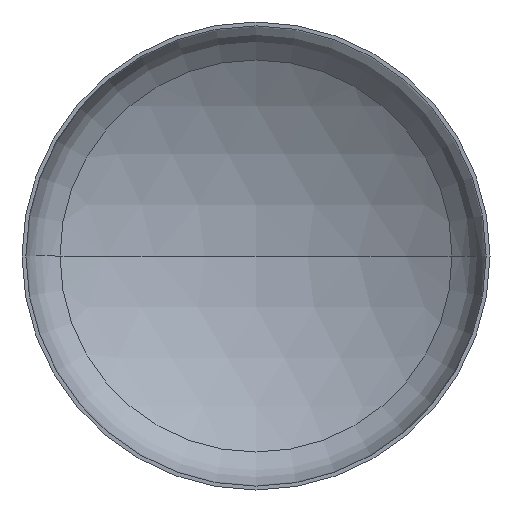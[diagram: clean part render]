
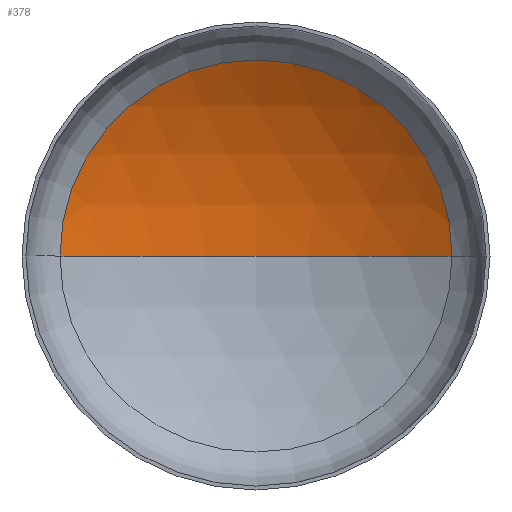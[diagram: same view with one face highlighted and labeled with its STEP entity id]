
A CAD part, front view. The second image highlights one B-rep face of the part: STEP entity #378.
In plain terms, the highlighted spherical face has radius 1360 mm.
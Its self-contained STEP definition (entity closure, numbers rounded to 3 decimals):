
#3 = CIRCLE ( 'NONE', #14, 712.145 ) ;
#12 = EDGE_LOOP ( 'NONE', ( #74, #23, #357 ) ) ;
#13 = AXIS2_PLACEMENT_3D ( 'NONE', #79, #129, #135 ) ;
#14 = AXIS2_PLACEMENT_3D ( 'NONE', #337, #241, #141 ) ;
#20 = AXIS2_PLACEMENT_3D ( 'NONE', #219, #386, #238 ) ;
#23 = ORIENTED_EDGE ( 'NONE', *, *, #353, .T. ) ;
#43 = VERTEX_POINT ( 'NONE', #287 ) ;
#74 = ORIENTED_EDGE ( 'NONE', *, *, #325, .F. ) ;
#79 = CARTESIAN_POINT ( 'NONE',  ( 0., -892.136, 0. ) ) ;
#91 = VERTEX_POINT ( 'NONE', #258 ) ;
#129 = DIRECTION ( 'NONE',  ( 0., 0., -1. ) ) ;
#131 = VERTEX_POINT ( 'NONE', #210 ) ;
#135 = DIRECTION ( 'NONE',  ( -1., 0., 0. ) ) ;
#139 = DIRECTION ( 'NONE',  ( 0., 0., -1. ) ) ;
#141 = DIRECTION ( 'NONE',  ( 1., 0., 0. ) ) ;
#172 = CIRCLE ( 'NONE', #13, 1360. ) ;
#210 = CARTESIAN_POINT ( 'NONE',  ( -712.145, 266.505, 0. ) ) ;
#219 = CARTESIAN_POINT ( 'NONE',  ( 0., -892.136, 0. ) ) ;
#238 = DIRECTION ( 'NONE',  ( 1., 0., 0. ) ) ;
#241 = DIRECTION ( 'NONE',  ( 0., -1., 0. ) ) ;
#258 = CARTESIAN_POINT ( 'NONE',  ( 712.145, 266.505, 0. ) ) ;
#259 = AXIS2_PLACEMENT_3D ( 'NONE', #351, #139, #285 ) ;
#269 = SPHERICAL_SURFACE ( 'NONE', #259, 1360. ) ;
#284 = CIRCLE ( 'NONE', #20, 1360. ) ;
#285 = DIRECTION ( 'NONE',  ( -1., 0., 0. ) ) ;
#287 = CARTESIAN_POINT ( 'NONE',  ( 0., 467.864, 0. ) ) ;
#325 = EDGE_CURVE ( 'NONE', #43, #131, #284, .T. ) ;
#337 = CARTESIAN_POINT ( 'NONE',  ( 0., 266.505, 0. ) ) ;
#348 = EDGE_CURVE ( 'NONE', #91, #131, #3, .T. ) ;
#351 = CARTESIAN_POINT ( 'NONE',  ( 0., -892.136, 0. ) ) ;
#353 = EDGE_CURVE ( 'NONE', #43, #91, #172, .T. ) ;
#357 = ORIENTED_EDGE ( 'NONE', *, *, #348, .T. ) ;
#378 = ADVANCED_FACE ( 'NONE', ( #406 ), #269, .F. ) ;
#386 = DIRECTION ( 'NONE',  ( 0., 0., 1. ) ) ;
#406 = FACE_OUTER_BOUND ( 'NONE', #12, .T. ) ;
